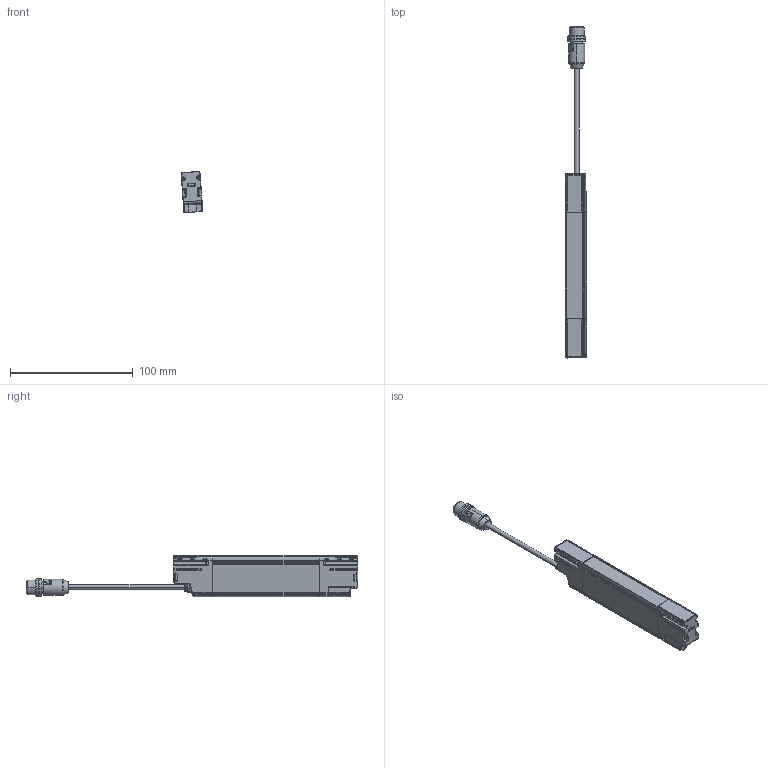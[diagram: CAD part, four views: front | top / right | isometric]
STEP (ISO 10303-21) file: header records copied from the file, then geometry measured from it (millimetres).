
FILE_DESCRIPTION((''),'2;1');
FILE_NAME('2023373','2017-01-19T',('smayer'),(''),'PRO/ENGINEER BY PARAMETRIC TECHNOLOGY CORPORATION, 2015110','PRO/ENGINEER BY PARAMETRIC TECHNOLOGY CORPORATION, 2015110','');
FILE_SCHEMA(('AUTOMOTIVE_DESIGN { 1 0 10303 214 1 1 1 1 }'));
Length unit declared in the file: millimetre
Products named in the file (1): 2023373
Bounding box: 17.36 x 270.24 x 33.49 mm (x, y, z)
Surface area: 21863 mm2 (no closed solid volume)
Topology: 0 solids, 60 shells, 1114 faces, 4002 edges, 2780 vertices
Faces by surface type: cylinder 422, plane 266, bspline 145, torus 139, cone 81, sphere 61
Entity records: 75616 total; most frequent: CARTESIAN_POINT 23660, DIRECTION 6373, ORIENTED_EDGE 6141, PRESENTATION_STYLE_ASSIGNMENT 5115, STYLED_ITEM 4001, CURVE_STYLE 3952, EDGE_CURVE 3951, VERTEX_POINT 2780
